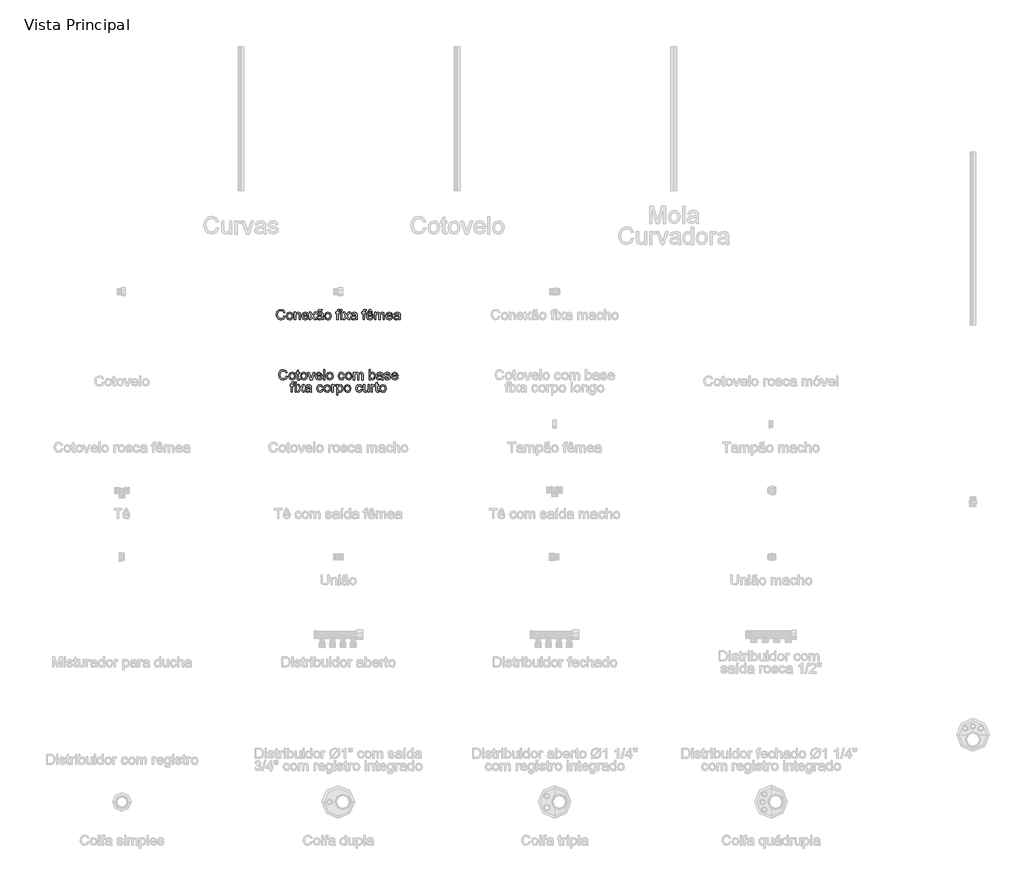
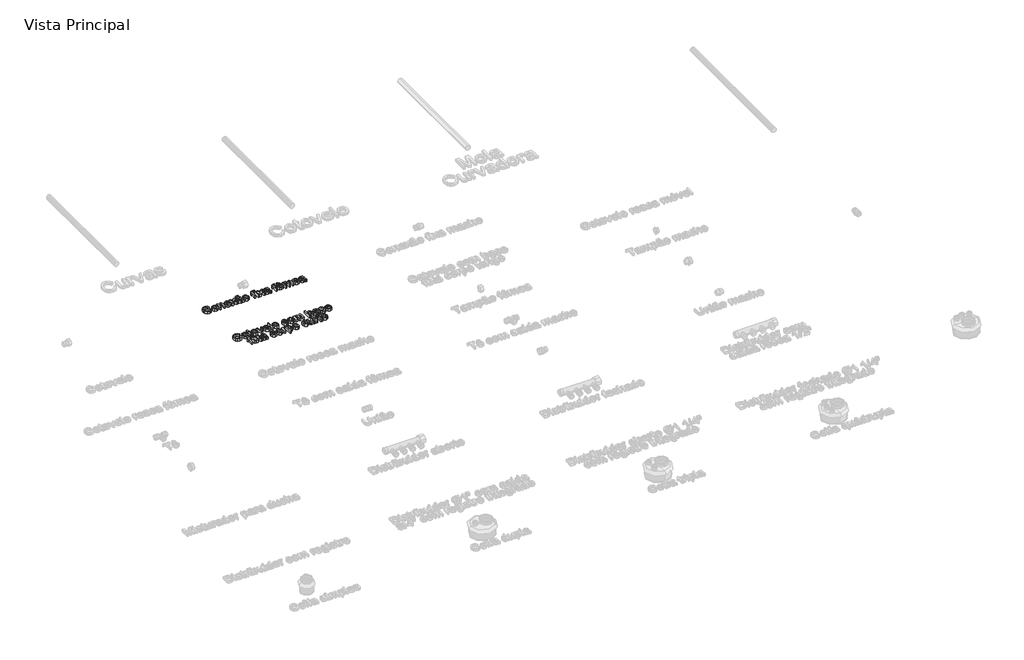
# One storey, part 5 of 12: 2 proxies.
"""IFC4 building model written with IfcOpenShell, lengths in millimetres."""

from ifc_helpers import new_model, si_unit, origin, origin_with_axes, place, context, project, spatial, polyline, outline, extrude, element, save

model = new_model("IFC4")

# Units and contexts
model_context = context("Model", 3, world=origin())
ifc_project = project(units=[si_unit("LENGTHUNIT", "METRE", prefix="MILLI")], contexts=[model_context])

# Site, building, storey
site = spatial("IfcSite", under=ifc_project)
building = spatial("IfcBuilding", under=site)
storey = spatial("IfcBuildingStorey", under=building, Name="Vista Principal", Elevation=0.0)

# Proxies
placement = place(None, origin())
element("IfcBuildingElementProxy", 1, Name="Legenda", ObjectType="Legenda", at=placement, inside=storey, context=model_context, shape_type="SweptSolid", body=[
    extrude(outline(polyline([(-519.5716653, -14.518665), (-515.1767017, -15.6517416), (-520.387137, -24.514632), (-529.589092, -27.5662131), (-538.7352515, -25.2571405), (-544.1001973, -18.5702721), (-545.9414467, -9.1708871), (-543.8598477, 0.3830083), (-537.9412396, 6.5763017), (-529.4946689, 8.6922363), (-520.6918659, 5.953968), (-515.7260721, -1.7543861), (-520.1210357, -2.8016235), (-523.7262793, 2.6019499), (-529.6663472, 4.2972727), (-536.5420617, 2.4173958), (-540.4262824, -2.6299452), (-541.5464831, -9.1623032), (-540.2202685, -16.7333146), (-536.0914063, -21.5703497), (-530.0268716, -23.1712496), (-523.3013756, -20.9909356), (-519.5716653, -14.518665)])), origin_with_axes(), (0.0, 0.0, 1.0), 10.0),
    extrude(outline(polyline([(-510.7817381, -14.1066372), (-506.9790646, -3.5055044), (-499.2363748, -0.6470613), (-490.9314388, -4.1278381), (-487.7081794, -13.7461128), (-489.133109, -21.5660578), (-493.283431, -25.9910651), (-499.2363748, -27.5662131), (-507.5928144, -24.0983122), (-510.7817381, -14.1066372)]), holes=[polyline([(-506.3867746, -14.0980533), (-504.3523871, -20.9093884), (-499.2363748, -23.1712496), (-494.1375304, -20.8965126), (-492.103143, -13.9607107), (-494.1504063, -7.303886), (-499.2363748, -5.0420248), (-504.3523871, -7.2953021), (-506.3867746, -14.0980533)])]), origin_with_axes(), (0.0, 0.0, 1.0), 10.0),
    extrude(outline(polyline([(-482.7638454, -27.0168427), (-482.7638454, -1.1964317), (-478.3688818, -1.1964317), (-478.3688818, -4.8016753), (-470.4201782, -0.6470613), (-466.2698561, -1.4839928), (-463.4371648, -3.6814746), (-462.1195341, -6.9133179), (-461.8877684, -11.162355), (-461.8877684, -27.0168427), (-466.282732, -27.0168427), (-466.282732, -11.754645), (-466.7891829, -7.8661323), (-468.5789288, -5.8102851), (-471.5961743, -5.0420248), (-476.3645381, -6.7673914), (-478.3688818, -13.3169172), (-478.3688818, -27.0168427), (-482.7638454, -27.0168427)])), origin_with_axes(), (0.0, 0.0, 1.0), 10.0),
    extrude(outline(polyline([(-437.7669723, -19.3256564), (-433.4578478, -19.8750269), (-437.4879951, -25.5489935), (-444.9946272, -27.5662131), (-454.119327, -24.0854363), (-457.4928048, -14.321235), (-454.0849913, -4.235137), (-445.2435607, -0.6470613), (-436.6553555, -4.2265531), (-433.3205052, -14.2954833), (-453.0978413, -15.4800633), (-450.5698788, -21.1883656), (-444.9087881, -23.1712496), (-440.5996636, -22.2527708), (-437.7669723, -19.3256564)]), holes=[polyline([(-453.0978413, -11.0850997), (-437.7154688, -11.0850997), (-439.475171, -7.102164), (-445.2607285, -5.0420248), (-450.6728858, -6.6858442), (-453.0978413, -11.0850997)])]), origin_with_axes(), (0.0, 0.0, 1.0), 10.0),
    extrude(outline(polyline([(-431.6723939, -27.0168427), (-422.2815928, -14.0379659), (-431.1230234, -1.1964317), (-425.8353329, -1.1964317), (-421.569128, -7.3768492), (-419.5776602, -10.2953797), (-417.8522936, -7.9090519), (-412.9937987, -1.1964317), (-407.7061082, -1.1964317), (-416.9939023, -14.0379659), (-408.0494647, -27.0168427), (-413.3371552, -27.0168427), (-418.7192688, -19.2140656), (-419.7064189, -17.789136), (-426.3847033, -27.0168427), (-431.6723939, -27.0168427)])), origin_with_axes(), (0.0, 0.0, 1.0), 10.0),
    extrude(outline(polyline([(-387.7227582, -23.72062), (-391.9846711, -26.6992379), (-396.6929475, -27.5662131), (-403.075087, -25.4803222), (-405.3026125, -20.1497121), (-404.461389, -16.6732273), (-402.2510313, -14.1495568), (-399.1736984, -12.7074593), (-395.3710249, -12.046498), (-387.7485099, -10.5357293), (-388.93309, -6.312444), (-393.7915848, -5.0420248), (-398.2380519, -5.8875403), (-400.3582785, -8.887618), (-404.753242, -8.3382475), (-402.8519052, -4.0462909), (-399.0234799, -1.5312043), (-393.2250466, -0.6470613), (-387.8987284, -1.4281974), (-384.8900668, -3.3896215), (-383.5423925, -6.3725314), (-383.3277946, -10.2181245), (-383.3277946, -15.6860772), (-383.1046129, -23.321468), (-382.2290537, -27.0168427), (-386.6240173, -27.0168427), (-387.7227582, -23.72062)]), holes=[polyline([(-387.7356341, -15.5530266), (-394.8130705, -16.2783672), (-398.5942843, -16.990832), (-400.306775, -18.1496603), (-400.9076489, -19.8406912), (-399.5986021, -22.2184352), (-395.757301, -23.1712496), (-391.3108339, -22.1197202), (-388.4438069, -19.5745899), (-387.7356341, -15.5530266)])]), origin_with_axes(), (0.0, 0.0, 1.0), 10.0),
    extrude(outline(polyline([(-401.4570193, 1.5504205), (-400.0921771, 6.348828), (-396.5985245, 8.1428659), (-393.07912, 6.7265202), (-391.30225, 5.9453841), (-389.92024, 8.1428659), (-386.0746469, 8.1428659), (-387.4695328, 3.1985319), (-390.8387187, 1.5504205), (-394.3152035, 2.889511), (-396.1693288, 3.7479023), (-397.6114262, 1.5504205), (-401.4570193, 1.5504205)])), origin_with_axes(), (0.0, 0.0, 1.0), 10.0),
    extrude(outline(polyline([(-378.3834606, -14.1066372), (-374.5807871, -3.5055044), (-366.8380973, -0.6470613), (-358.5331613, -4.1278381), (-355.3099019, -13.7461128), (-356.7348315, -21.5660578), (-360.8851535, -25.9910651), (-366.8380973, -27.5662131), (-375.1945368, -24.0983122), (-378.3834606, -14.1066372)]), holes=[polyline([(-373.988497, -14.0980533), (-371.9541096, -20.9093884), (-366.8380973, -23.1712496), (-361.7392529, -20.8965126), (-359.7048654, -13.9607107), (-361.7521287, -7.303886), (-366.8380973, -5.0420248), (-371.9541096, -7.2953021), (-373.988497, -14.0980533)])]), origin_with_axes(), (0.0, 0.0, 1.0), 10.0),
    extrude(outline(polyline([(-335.5325658, -27.0168427), (-335.5325658, -5.5913953), (-339.3781589, -5.5913953), (-339.3781589, -1.1964317), (-335.5325658, -1.1964317), (-335.5325658, 1.404494), (-335.0690345, 5.0698249), (-332.8200492, 7.6879185), (-328.39075, 8.6922363), (-324.3820625, 8.2115372), (-325.025856, 4.0912588), (-327.5581104, 4.2972727), (-330.3264224, 3.5676401), (-331.1376022, 0.8465396), (-331.1376022, -1.1964317), (-326.1932682, -1.1964317), (-326.1932682, -5.5913953), (-331.1376022, -5.5913953), (-331.1376022, -27.0168427), (-335.5325658, -27.0168427)])), origin_with_axes(), (0.0, 0.0, 1.0), 10.0),
    extrude(outline(polyline([(-322.3476751, 3.7479023), (-322.3476751, 8.1428659), (-317.9527115, 8.1428659), (-317.9527115, 3.7479023), (-322.3476751, 3.7479023)])), origin_with_axes(), (0.0, 0.0, 1.0), 10.0),
    extrude(outline(polyline([(-322.3476751, -27.0168427), (-322.3476751, -1.1964317), (-317.9527115, -1.1964317), (-317.9527115, -27.0168427), (-322.3476751, -27.0168427)])), origin_with_axes(), (0.0, 0.0, 1.0), 10.0),
    extrude(outline(polyline([(-314.1071184, -27.0168427), (-304.7163173, -14.0379659), (-313.557748, -1.1964317), (-308.2700574, -1.1964317), (-304.0038525, -7.3768492), (-302.0123847, -10.2953797), (-300.2870181, -7.9090519), (-295.4285232, -1.1964317), (-290.1408327, -1.1964317), (-299.4286268, -14.0379659), (-290.4841892, -27.0168427), (-295.7718798, -27.0168427), (-301.1539934, -19.2140656), (-302.1411434, -17.789136), (-308.8194279, -27.0168427), (-314.1071184, -27.0168427)])), origin_with_axes(), (0.0, 0.0, 1.0), 10.0),
    extrude(outline(polyline([(-270.1574827, -23.72062), (-274.4193956, -26.6992379), (-279.127672, -27.5662131), (-285.5098115, -25.4803222), (-287.737337, -20.1497121), (-286.8961135, -16.6732273), (-284.6857558, -14.1495568), (-281.608423, -12.7074593), (-277.8057494, -12.046498), (-270.1832345, -10.5357293), (-271.3678145, -6.312444), (-276.2263094, -5.0420248), (-280.6727764, -5.8875403), (-282.793003, -8.887618), (-287.1879665, -8.3382475), (-285.2866298, -4.0462909), (-281.4582045, -1.5312043), (-275.6597711, -0.6470613), (-270.3334529, -1.4281974), (-267.3247914, -3.3896215), (-265.977117, -6.3725314), (-265.7625192, -10.2181245), (-265.7625192, -15.6860772), (-265.5393374, -23.321468), (-264.6637783, -27.0168427), (-269.0587418, -27.0168427), (-270.1574827, -23.72062)]), holes=[polyline([(-270.1703586, -15.5530266), (-277.247795, -16.2783672), (-281.0290088, -16.990832), (-282.7414995, -18.1496603), (-283.3423734, -19.8406912), (-282.0333267, -22.2184352), (-278.1920255, -23.1712496), (-273.7455584, -22.1197202), (-270.8785314, -19.5745899), (-270.1703586, -15.5530266)])]), origin_with_axes(), (0.0, 0.0, 1.0), 10.0),
    extrude(outline(polyline([(-244.8864422, -27.0168427), (-244.8864422, -5.5913953), (-248.7320353, -5.5913953), (-248.7320353, -1.1964317), (-244.8864422, -1.1964317), (-244.8864422, 1.404494), (-244.4229109, 5.0698249), (-242.1739256, 7.6879185), (-237.7446264, 8.6922363), (-233.7359389, 8.2115372), (-234.3797324, 4.0912588), (-236.9119868, 4.2972727), (-239.6802988, 3.5676401), (-240.4914786, 0.8465396), (-240.4914786, -1.1964317), (-235.5471446, -1.1964317), (-235.5471446, -5.5913953), (-240.4914786, -5.5913953), (-240.4914786, -27.0168427), (-244.8864422, -27.0168427)])), origin_with_axes(), (0.0, 0.0, 1.0), 10.0),
    extrude(outline(polyline([(-213.6238302, -19.3256564), (-209.3147058, -19.8750269), (-213.3448531, -25.5489935), (-220.8514852, -27.5662131), (-229.9761849, -24.0854363), (-233.3496628, -14.321235), (-229.9418493, -4.235137), (-221.1004187, -0.6470613), (-212.5122135, -4.2265531), (-209.1773632, -14.2954833), (-228.9546993, -15.4800633), (-226.4267368, -21.1883656), (-220.765646, -23.1712496), (-216.4565216, -22.2527708), (-213.6238302, -19.3256564)]), holes=[polyline([(-228.9546993, -11.0850997), (-213.5723268, -11.0850997), (-215.332029, -7.102164), (-221.1175865, -5.0420248), (-226.5297438, -6.6858442), (-228.9546993, -11.0850997)])]), origin_with_axes(), (0.0, 0.0, 1.0), 10.0),
    extrude(outline(polyline([(-221.263513, 5.9453841), (-223.73568, 1.5504205), (-228.1306436, 1.5504205), (-223.4609948, 8.1428659), (-219.0660312, 8.1428659), (-213.847012, 1.5504205), (-218.2419756, 1.5504205), (-221.263513, 5.9453841)])), origin_with_axes(), (0.0, 0.0, 1.0), 10.0),
    extrude(outline(polyline([(-204.7823996, -27.0168427), (-204.7823996, -1.1964317), (-200.3874361, -1.1964317), (-200.3874361, -5.4454688), (-197.3658986, -1.9646919), (-193.0653581, -0.6470613), (-188.6618106, -1.9904437), (-186.2411471, -5.7544896), (-178.4812895, -0.6470613), (-172.7343596, -2.7715798), (-170.721432, -9.3168136), (-170.721432, -27.0168427), (-175.1163955, -27.0168427), (-175.1163955, -11.2052745), (-175.5241314, -7.5356516), (-177.0005645, -5.7287379), (-179.5113591, -5.0420248), (-183.8333594, -6.801727), (-185.554434, -12.441358), (-185.554434, -27.0168427), (-189.9493976, -27.0168427), (-189.9493976, -10.7159915), (-190.9665913, -6.4583705), (-194.3014416, -5.0420248), (-197.5547447, -5.9862553), (-199.7178908, -8.7502753), (-200.3874361, -13.9950463), (-200.3874361, -27.0168427), (-204.7823996, -27.0168427)])), origin_with_axes(), (0.0, 0.0, 1.0), 10.0),
    extrude(outline(polyline([(-146.0512654, -19.3256564), (-141.7421409, -19.8750269), (-145.7722882, -25.5489935), (-153.2789203, -27.5662131), (-162.4036201, -24.0854363), (-165.777098, -14.321235), (-162.3692844, -4.235137), (-153.5278538, -0.6470613), (-144.9396486, -4.2265531), (-141.6047983, -14.2954833), (-161.3821344, -15.4800633), (-158.8541719, -21.1883656), (-153.1930812, -23.1712496), (-148.8839567, -22.2527708), (-146.0512654, -19.3256564)]), holes=[polyline([(-161.3821344, -11.0850997), (-145.9997619, -11.0850997), (-147.7594641, -7.102164), (-153.5450216, -5.0420248), (-158.9571789, -6.6858442), (-161.3821344, -11.0850997)])]), origin_with_axes(), (0.0, 0.0, 1.0), 10.0),
    extrude(outline(polyline([(-120.7287214, -23.72062), (-124.9906343, -26.6992379), (-129.6989107, -27.5662131), (-136.0810502, -25.4803222), (-138.3085756, -20.1497121), (-137.4673522, -16.6732273), (-135.2569945, -14.1495568), (-132.1796616, -12.7074593), (-128.3769881, -12.046498), (-120.7544731, -10.5357293), (-121.9390531, -6.312444), (-126.797548, -5.0420248), (-131.2440151, -5.8875403), (-133.3642416, -8.887618), (-137.7592052, -8.3382475), (-135.8578684, -4.0462909), (-132.0294431, -1.5312043), (-126.2310097, -0.6470613), (-120.9046916, -1.4281974), (-117.89603, -3.3896215), (-116.5483556, -6.3725314), (-116.3337578, -10.2181245), (-116.3337578, -15.6860772), (-116.1105761, -23.321468), (-115.2350169, -27.0168427), (-119.6299805, -27.0168427), (-120.7287214, -23.72062)]), holes=[polyline([(-120.7415972, -15.5530266), (-127.8190337, -16.2783672), (-131.6002475, -16.990832), (-133.3127382, -18.1496603), (-133.9136121, -19.8406912), (-132.6045653, -22.2184352), (-128.7632641, -23.1712496), (-124.3167971, -22.1197202), (-121.4497701, -19.5745899), (-120.7415972, -15.5530266)])]), origin_with_axes(), (0.0, 0.0, 1.0), 10.0),
])
element("IfcBuildingElementProxy", 2, Name="Legenda", ObjectType="Legenda", at=placement, inside=storey, context=model_context, shape_type="SweptSolid", body=[
    extrude(outline(polyline([(-511.0564233, -223.1730719), (-506.6614598, -224.3061485), (-511.8718951, -233.1690389), (-521.0738501, -236.22062), (-530.2200096, -233.9115473), (-535.5849554, -227.2246789), (-537.4262048, -217.825294), (-535.3446058, -208.2713986), (-529.4259976, -202.0781052), (-520.979427, -199.9621706), (-512.176624, -202.7004389), (-507.2108302, -210.408793), (-511.6057938, -211.4560304), (-515.2110373, -206.052457), (-521.1511053, -204.3571341), (-528.0268198, -206.2370111), (-531.9110405, -211.2843521), (-533.0312412, -217.8167101), (-531.7050266, -225.3877215), (-527.5761643, -230.2247566), (-521.5116297, -231.8256564), (-514.7861336, -229.6453425), (-511.0564233, -223.1730719)])), origin_with_axes(), (0.0, 0.0, 1.0), 10.0),
    extrude(outline(polyline([(-502.2664962, -222.7610441), (-498.4638227, -212.1599112), (-490.7211329, -209.3014681), (-482.4161969, -212.782245), (-479.1929375, -222.4005197), (-480.6178671, -230.2204647), (-484.7681891, -234.6454719), (-490.7211329, -236.22062), (-499.0775724, -232.7527191), (-502.2664962, -222.7610441)]), holes=[polyline([(-497.8715326, -222.7524602), (-495.8371452, -229.5637953), (-490.7211329, -231.8256564), (-485.6222885, -229.5509194), (-483.587901, -222.6151176), (-485.6351643, -215.9582928), (-490.7211329, -213.6964317), (-495.8371452, -215.9497089), (-497.8715326, -222.7524602)])]), origin_with_axes(), (0.0, 0.0, 1.0), 10.0),
    extrude(outline(polyline([(-464.9093059, -232.0059186), (-464.3599354, -235.8000083), (-467.6475742, -236.22062), (-471.330073, -235.4909874), (-473.1670304, -233.5767747), (-473.699233, -228.5895212), (-473.699233, -214.2458022), (-476.9954557, -214.2458022), (-476.9954557, -209.8508386), (-473.699233, -209.8508386), (-473.699233, -203.575998), (-469.3042694, -200.9922401), (-469.3042694, -209.8508386), (-464.9093059, -209.8508386), (-464.9093059, -214.2458022), (-469.3042694, -214.2458022), (-469.3042694, -228.4607625), (-469.0725038, -230.7269155), (-464.9093059, -232.0059186)])), origin_with_axes(), (0.0, 0.0, 1.0), 10.0),
    extrude(outline(polyline([(-461.6130832, -222.7610441), (-457.8104096, -212.1599112), (-450.0677199, -209.3014681), (-441.7627839, -212.782245), (-438.5395245, -222.4005197), (-439.9644541, -230.2204647), (-444.1147761, -234.6454719), (-450.0677199, -236.22062), (-458.4241594, -232.7527191), (-461.6130832, -222.7610441)]), holes=[polyline([(-457.2181196, -222.7524602), (-455.1837322, -229.5637953), (-450.0677199, -231.8256564), (-444.9688755, -229.5509194), (-442.934488, -222.6151176), (-444.9817513, -215.9582928), (-450.0677199, -213.6964317), (-455.1837322, -215.9497089), (-457.2181196, -222.7524602)])]), origin_with_axes(), (0.0, 0.0, 1.0), 10.0),
    extrude(outline(polyline([(-427.2602625, -235.6712496), (-436.3420427, -209.8508386), (-431.6895617, -209.8508386), (-426.1872733, -225.3190502), (-424.5305781, -230.5209016), (-422.9082185, -225.6109033), (-417.3715945, -209.8508386), (-412.7191135, -209.8508386), (-421.6893028, -235.6712496), (-427.2602625, -235.6712496)])), origin_with_axes(), (0.0, 0.0, 1.0), 10.0),
    extrude(outline(polyline([(-390.7957991, -227.9800633), (-386.4866747, -228.5294338), (-390.5168219, -234.2034004), (-398.0234541, -236.22062), (-407.1481538, -232.7398432), (-410.5216317, -222.9756419), (-407.1138182, -212.8895439), (-398.2723875, -209.3014681), (-389.6841824, -212.88096), (-386.3493321, -222.9498902), (-406.1266681, -224.1344702), (-403.5987057, -229.8427725), (-397.9376149, -231.8256564), (-393.6284905, -230.9071777), (-390.7957991, -227.9800633)]), holes=[polyline([(-406.1266681, -219.7395066), (-390.7442956, -219.7395066), (-392.5039979, -215.7565709), (-398.2895554, -213.6964317), (-403.7017127, -215.3402511), (-406.1266681, -219.7395066)])]), origin_with_axes(), (0.0, 0.0, 1.0), 10.0),
    extrude(outline(polyline([(-381.9543685, -235.6712496), (-381.9543685, -200.511541), (-377.5594049, -200.511541), (-377.5594049, -235.6712496), (-381.9543685, -235.6712496)])), origin_with_axes(), (0.0, 0.0, 1.0), 10.0),
    extrude(outline(polyline([(-372.0657005, -222.7610441), (-368.2630269, -212.1599112), (-360.5203372, -209.3014681), (-352.2154012, -212.782245), (-348.9921417, -222.4005197), (-350.4170713, -230.2204647), (-354.5673934, -234.6454719), (-360.5203372, -236.22062), (-368.8767767, -232.7527191), (-372.0657005, -222.7610441)]), holes=[polyline([(-367.6707369, -222.7524602), (-365.6363495, -229.5637953), (-360.5203372, -231.8256564), (-355.4214927, -229.5509194), (-353.3871053, -222.6151176), (-355.4343686, -215.9582928), (-360.5203372, -213.6964317), (-365.6363495, -215.9497089), (-367.6707369, -222.7524602)])]), origin_with_axes(), (0.0, 0.0, 1.0), 10.0),
    extrude(outline(polyline([(-313.8324332, -226.331952), (-309.4374696, -226.8813224), (-312.965458, -233.744161), (-319.9355955, -236.22062), (-328.2662833, -232.7655949), (-331.4122875, -222.8554671), (-330.068905, -215.5548489), (-325.9743784, -210.8637404), (-319.9956829, -209.3014681), (-313.3131064, -211.4474464), (-309.9868401, -217.5420248), (-314.3818036, -218.0913953), (-316.420483, -214.7994646), (-319.9613472, -213.6964317), (-325.0558997, -215.8681618), (-327.0173239, -222.7352923), (-325.0988193, -229.6668023), (-320.081522, -231.8256564), (-315.9397839, -230.4779821), (-313.8324332, -226.331952)])), origin_with_axes(), (0.0, 0.0, 1.0), 10.0),
    extrude(outline(polyline([(-306.6906174, -222.7610441), (-302.8879438, -212.1599112), (-295.1452541, -209.3014681), (-286.8403181, -212.782245), (-283.6170586, -222.4005197), (-285.0419882, -230.2204647), (-289.1923103, -234.6454719), (-295.1452541, -236.22062), (-303.5016936, -232.7527191), (-306.6906174, -222.7610441)]), holes=[polyline([(-302.2956538, -222.7524602), (-300.2612664, -229.5637953), (-295.1452541, -231.8256564), (-290.0464097, -229.5509194), (-288.0120222, -222.6151176), (-290.0592855, -215.9582928), (-295.1452541, -213.6964317), (-300.2612664, -215.9497089), (-302.2956538, -222.7524602)])]), origin_with_axes(), (0.0, 0.0, 1.0), 10.0),
    extrude(outline(polyline([(-278.6727246, -235.6712496), (-278.6727246, -209.8508386), (-274.2777611, -209.8508386), (-274.2777611, -214.0998756), (-271.2562236, -210.6190988), (-266.9556831, -209.3014681), (-262.5521356, -210.6448506), (-260.1314721, -214.4088965), (-252.3716145, -209.3014681), (-246.6246846, -211.4259867), (-244.611757, -217.9712205), (-244.611757, -235.6712496), (-249.0067205, -235.6712496), (-249.0067205, -219.8596814), (-249.4144564, -216.1900585), (-250.8908895, -214.3831448), (-253.4016841, -213.6964317), (-257.7236844, -215.4561339), (-259.444759, -221.0957649), (-259.444759, -235.6712496), (-263.8397226, -235.6712496), (-263.8397226, -219.3703984), (-264.8569163, -215.1127774), (-268.1917666, -213.6964317), (-271.4450697, -214.6406622), (-273.6082158, -217.4046822), (-274.2777611, -222.6494532), (-274.2777611, -235.6712496), (-278.6727246, -235.6712496)])), origin_with_axes(), (0.0, 0.0, 1.0), 10.0),
    extrude(outline(polyline([(-219.8900869, -235.6712496), (-224.2850505, -235.6712496), (-224.2850505, -200.511541), (-219.8900869, -200.511541), (-219.8900869, -213.5505052), (-212.9886207, -209.3014681), (-208.5850732, -210.2585745), (-205.1686757, -212.9496313), (-203.0699089, -217.134289), (-202.3102326, -222.374768), (-205.4562368, -232.6067925), (-213.0143724, -236.22062), (-219.8900869, -231.5595551), (-219.8900869, -235.6712496)]), holes=[polyline([(-219.8900869, -222.5807819), (-218.688339, -228.7268638), (-213.3920646, -231.8256564), (-208.6880801, -229.5423355), (-206.7051962, -222.7352923), (-208.606533, -215.9024974), (-213.2032185, -213.6964317), (-217.9072029, -215.9797526), (-219.8900869, -222.5807819)])]), origin_with_axes(), (0.0, 0.0, 1.0), 10.0),
    extrude(outline(polyline([(-180.8847852, -232.3750269), (-185.1466981, -235.3536448), (-189.8549745, -236.22062), (-196.237114, -234.1347291), (-198.4646395, -228.804119), (-197.623416, -225.3276341), (-195.4130583, -222.8039636), (-192.3357255, -221.3618662), (-188.5330519, -220.7009049), (-180.910537, -219.1901362), (-182.095117, -214.9668509), (-186.9536119, -213.6964317), (-191.4000789, -214.5419472), (-193.5203055, -217.5420248), (-197.9152691, -216.9926544), (-196.0139323, -212.7006978), (-192.185507, -210.1856112), (-186.3870736, -209.3014681), (-181.0607554, -210.0826042), (-178.0520939, -212.0440284), (-176.7044195, -215.0269383), (-176.4898217, -218.8725314), (-176.4898217, -224.3404841), (-176.2666399, -231.9758749), (-175.3910808, -235.6712496), (-179.7860443, -235.6712496), (-180.8847852, -232.3750269)]), holes=[polyline([(-180.8976611, -224.2074335), (-187.9750975, -224.9327741), (-191.7563113, -225.6452389), (-193.468802, -226.8040672), (-194.0696759, -228.4950981), (-192.7606292, -230.8728421), (-188.919328, -231.8256564), (-184.4728609, -230.7741271), (-181.6058339, -228.2289968), (-180.8976611, -224.2074335)])]), origin_with_axes(), (0.0, 0.0, 1.0), 10.0),
    extrude(outline(polyline([(-172.0948581, -227.9800633), (-167.6998945, -227.4306929), (-165.6655071, -230.6925799), (-161.0044422, -231.8256564), (-156.5236395, -230.7870029), (-155.0643743, -228.3491716), (-156.5322234, -226.3748715), (-161.0559457, -225.1216202), (-167.6741428, -222.9713499), (-170.5626296, -220.4605553), (-171.5454876, -216.9153992), (-170.7557676, -213.6406363), (-168.6012054, -211.1384256), (-165.8071417, -209.8379627), (-162.0259279, -209.3014681), (-156.6781499, -210.1641514), (-153.2789203, -212.4989758), (-151.7681516, -216.4432839), (-156.1631151, -216.9926544), (-157.8155184, -214.5676989), (-161.6825713, -213.6964317), (-165.8886888, -214.5290713), (-167.1505241, -216.4690357), (-164.9873779, -218.7180209), (-161.2018722, -219.6536675), (-154.7510614, -221.7223906), (-151.7552757, -224.0657989), (-150.6694107, -227.8856403), (-151.9441218, -232.0917577), (-155.6223286, -235.1433389), (-161.0645296, -236.22062), (-168.7299641, -234.143313), (-172.0948581, -227.9800633)])), origin_with_axes(), (0.0, 0.0, 1.0), 10.0),
    extrude(outline(polyline([(-127.6473554, -227.9800633), (-123.338231, -228.5294338), (-127.3683782, -234.2034004), (-134.8750104, -236.22062), (-143.9997101, -232.7398432), (-147.373188, -222.9756419), (-143.9653745, -212.8895439), (-135.1239438, -209.3014681), (-126.5357387, -212.88096), (-123.2008884, -222.9498902), (-142.9782244, -224.1344702), (-140.450262, -229.8427725), (-134.7891712, -231.8256564), (-130.4800468, -230.9071777), (-127.6473554, -227.9800633)]), holes=[polyline([(-142.9782244, -219.7395066), (-127.5958519, -219.7395066), (-129.3555542, -215.7565709), (-135.1411117, -213.6964317), (-140.553269, -215.3402511), (-142.9782244, -219.7395066)])]), origin_with_axes(), (0.0, 0.0, 1.0), 10.0),
    extrude(outline(polyline([(-494.0259395, -278.3624358), (-494.0259395, -256.9369884), (-497.8715326, -256.9369884), (-497.8715326, -252.5420248), (-494.0259395, -252.5420248), (-494.0259395, -249.9410991), (-493.5624082, -246.2757682), (-491.3134229, -243.6576747), (-486.8841237, -242.6533568), (-482.8754362, -243.1340559), (-483.5192297, -247.2543343), (-486.0514841, -247.0483204), (-488.8197961, -247.777953), (-489.6309759, -250.4990535), (-489.6309759, -252.5420248), (-484.6866419, -252.5420248), (-484.6866419, -256.9369884), (-489.6309759, -256.9369884), (-489.6309759, -278.3624358), (-494.0259395, -278.3624358)])), origin_with_axes(), (0.0, 0.0, 1.0), 10.0),
    extrude(outline(polyline([(-480.8410488, -247.5976908), (-480.8410488, -243.2027273), (-476.4460852, -243.2027273), (-476.4460852, -247.5976908), (-480.8410488, -247.5976908)])), origin_with_axes(), (0.0, 0.0, 1.0), 10.0),
    extrude(outline(polyline([(-480.8410488, -278.3624358), (-480.8410488, -252.5420248), (-476.4460852, -252.5420248), (-476.4460852, -278.3624358), (-480.8410488, -278.3624358)])), origin_with_axes(), (0.0, 0.0, 1.0), 10.0),
    extrude(outline(polyline([(-472.6004921, -278.3624358), (-463.2096911, -265.383559), (-472.0511217, -252.5420248), (-466.7634311, -252.5420248), (-462.4972263, -258.7224424), (-460.5057584, -261.6409729), (-458.7803918, -259.254645), (-453.921897, -252.5420248), (-448.6342064, -252.5420248), (-457.9220005, -265.383559), (-448.9775629, -278.3624358), (-454.2652535, -278.3624358), (-459.6473671, -270.5596587), (-460.6345171, -269.1347291), (-467.3128016, -278.3624358), (-472.6004921, -278.3624358)])), origin_with_axes(), (0.0, 0.0, 1.0), 10.0),
    extrude(outline(polyline([(-428.6508564, -275.0662131), (-432.9127693, -278.044831), (-437.6210457, -278.9118063), (-444.0031852, -276.8259153), (-446.2307107, -271.4953052), (-445.3894872, -268.0188204), (-443.1791296, -265.4951499), (-440.1017967, -264.0530525), (-436.2991231, -263.3920911), (-428.6766082, -261.8813224), (-429.8611882, -257.6580371), (-434.7196831, -256.387618), (-439.1661501, -257.2331334), (-441.2863767, -260.2332111), (-445.6813403, -259.6838406), (-443.7800035, -255.391884), (-439.9515782, -252.8767975), (-434.1531448, -251.9926544), (-428.8268266, -252.7737905), (-425.8181651, -254.7352147), (-424.4704907, -257.7181245), (-424.2558929, -261.5637176), (-424.2558929, -267.0316704), (-424.0327111, -274.6670612), (-423.157152, -278.3624358), (-427.5521155, -278.3624358), (-428.6508564, -275.0662131)]), holes=[polyline([(-428.6637323, -266.8986197), (-435.7411687, -267.6239604), (-439.5223825, -268.3364252), (-441.2348732, -269.4952534), (-441.8357471, -271.1862844), (-440.5267004, -273.5640283), (-436.6853992, -274.5168427), (-432.2389322, -273.4653133), (-429.3719051, -270.920183), (-428.6637323, -266.8986197)])]), origin_with_axes(), (0.0, 0.0, 1.0), 10.0),
    extrude(outline(polyline([(-387.9974434, -269.0231382), (-383.6024798, -269.5725087), (-387.1304682, -276.4353473), (-394.1006057, -278.9118063), (-402.4312935, -275.4567812), (-405.5772977, -265.5466534), (-404.2339153, -258.2460352), (-400.1393887, -253.5549266), (-394.1606931, -251.9926544), (-387.4781167, -254.1386327), (-384.1518503, -260.2332111), (-388.5468139, -260.7825815), (-390.5854933, -257.4906508), (-394.1263575, -256.387618), (-399.22091, -258.559348), (-401.1823341, -265.4264786), (-399.2638295, -272.3579885), (-394.2465322, -274.5168427), (-390.1047941, -273.1691683), (-387.9974434, -269.0231382)])), origin_with_axes(), (0.0, 0.0, 1.0), 10.0),
    extrude(outline(polyline([(-380.8556276, -265.4522303), (-377.0529541, -254.8510975), (-369.3102643, -251.9926544), (-361.0053283, -255.4734312), (-357.7820689, -265.091706), (-359.2069985, -272.9116509), (-363.3573205, -277.3366582), (-369.3102643, -278.9118063), (-377.6667039, -275.4439053), (-380.8556276, -265.4522303)]), holes=[polyline([(-376.460664, -265.4436464), (-374.4262766, -272.2549815), (-369.3102643, -274.5168427), (-364.2114199, -272.2421057), (-362.1770324, -265.3063038), (-364.2242957, -258.6494791), (-369.3102643, -256.387618), (-374.4262766, -258.6408952), (-376.460664, -265.4436464)])]), origin_with_axes(), (0.0, 0.0, 1.0), 10.0),
    extrude(outline(polyline([(-352.8377349, -278.3624358), (-352.8377349, -252.5420248), (-348.9921417, -252.5420248), (-348.9921417, -256.3618662), (-346.2624573, -252.8424618), (-343.5156051, -251.9926544), (-339.1034737, -253.3489127), (-340.5713229, -257.2889288), (-343.6615316, -256.387618), (-346.1465745, -257.2545932), (-347.7303065, -259.6580889), (-348.4427713, -264.791269), (-348.4427713, -278.3624358), (-352.8377349, -278.3624358)])), origin_with_axes(), (0.0, 0.0, 1.0), 10.0),
    extrude(outline(polyline([(-336.3566215, -288.2511038), (-336.3566215, -252.5420248), (-331.9616579, -252.5420248), (-331.9616579, -256.8511493), (-328.9229526, -253.2072781), (-324.8198421, -251.9926544), (-319.2488824, -253.6922692), (-315.6093032, -258.4820928), (-314.3818036, -265.2548003), (-315.7681056, -272.3751563), (-319.7939609, -277.2250673), (-325.3520447, -278.9118063), (-329.1761781, -277.7830217), (-331.9616579, -274.9288705), (-331.9616579, -288.2511038), (-336.3566215, -288.2511038)]), holes=[polyline([(-331.9616579, -265.6582442), (-330.0603211, -272.3536966), (-325.4464678, -274.5168427), (-320.7381914, -272.2764413), (-318.7767672, -265.3320555), (-320.6909799, -258.6194354), (-325.2662056, -256.387618), (-329.9315624, -258.76107), (-331.9616579, -265.6582442)])]), origin_with_axes(), (0.0, 0.0, 1.0), 10.0),
    extrude(outline(polyline([(-310.5362105, -265.4522303), (-306.733537, -254.8510975), (-298.9908472, -251.9926544), (-290.6859112, -255.4734312), (-287.4626518, -265.091706), (-288.8875814, -272.9116509), (-293.0379034, -277.3366582), (-298.9908472, -278.9118063), (-307.3472867, -275.4439053), (-310.5362105, -265.4522303)]), holes=[polyline([(-306.1412469, -265.4436464), (-304.1068595, -272.2549815), (-298.9908472, -274.5168427), (-293.8920028, -272.2421057), (-291.8576153, -265.3063038), (-293.9048786, -258.6494791), (-298.9908472, -256.387618), (-304.1068595, -258.6408952), (-306.1412469, -265.4436464)])]), origin_with_axes(), (0.0, 0.0, 1.0), 10.0),
    extrude(outline(polyline([(-252.3029432, -269.0231382), (-247.9079797, -269.5725087), (-251.435968, -276.4353473), (-258.4061055, -278.9118063), (-266.7367933, -275.4567812), (-269.8827975, -265.5466534), (-268.5394151, -258.2460352), (-264.4448885, -253.5549266), (-258.4661929, -251.9926544), (-251.7836165, -254.1386327), (-248.4573501, -260.2332111), (-252.8523137, -260.7825815), (-254.8909931, -257.4906508), (-258.4318573, -256.387618), (-263.5264098, -258.559348), (-265.4878339, -265.4264786), (-263.5693293, -272.3579885), (-258.552032, -274.5168427), (-254.4102939, -273.1691683), (-252.3029432, -269.0231382)])), origin_with_axes(), (0.0, 0.0, 1.0), 10.0),
    extrude(outline(polyline([(-227.5812731, -278.3624358), (-227.5812731, -273.9245527), (-235.512809, -278.9118063), (-239.6459632, -278.0362471), (-242.4958224, -275.8387653), (-243.8048691, -272.60263), (-244.0623865, -268.5166873), (-244.0623865, -252.5420248), (-239.667423, -252.5420248), (-239.667423, -266.4479643), (-239.4013216, -270.928767), (-237.6630792, -273.5597364), (-234.3883163, -274.5168427), (-230.7186934, -273.5382766), (-228.2937379, -270.8729715), (-227.5812731, -265.975849), (-227.5812731, -252.5420248), (-223.1863096, -252.5420248), (-223.1863096, -278.3624358), (-227.5812731, -278.3624358)])), origin_with_axes(), (0.0, 0.0, 1.0), 10.0),
    extrude(outline(polyline([(-217.1432347, -278.3624358), (-217.1432347, -252.5420248), (-213.2976415, -252.5420248), (-213.2976415, -256.3618662), (-210.5679571, -252.8424618), (-207.8211049, -251.9926544), (-203.4089735, -253.3489127), (-204.8768227, -257.2889288), (-207.9670314, -256.387618), (-210.4520743, -257.2545932), (-212.0358063, -259.6580889), (-212.7482711, -264.791269), (-212.7482711, -278.3624358), (-217.1432347, -278.3624358)])), origin_with_axes(), (0.0, 0.0, 1.0), 10.0),
    extrude(outline(polyline([(-191.3228237, -274.6971049), (-190.7734533, -278.4911945), (-194.061092, -278.9118063), (-197.7435908, -278.1821736), (-199.5805482, -276.267961), (-200.1127508, -271.2807074), (-200.1127508, -256.9369884), (-203.4089735, -256.9369884), (-203.4089735, -252.5420248), (-200.1127508, -252.5420248), (-200.1127508, -246.2671843), (-195.7177873, -243.6834264), (-195.7177873, -252.5420248), (-191.3228237, -252.5420248), (-191.3228237, -256.9369884), (-195.7177873, -256.9369884), (-195.7177873, -271.1519487), (-195.4860216, -273.4181018), (-191.3228237, -274.6971049)])), origin_with_axes(), (0.0, 0.0, 1.0), 10.0),
    extrude(outline(polyline([(-188.026601, -265.4522303), (-184.2239275, -254.8510975), (-176.4812377, -251.9926544), (-168.1763017, -255.4734312), (-164.9530423, -265.091706), (-166.3779719, -272.9116509), (-170.5282939, -277.3366582), (-176.4812377, -278.9118063), (-184.8376773, -275.4439053), (-188.026601, -265.4522303)]), holes=[polyline([(-183.6316375, -265.4436464), (-181.59725, -272.2549815), (-176.4812377, -274.5168427), (-171.3823933, -272.2421057), (-169.3480059, -265.3063038), (-171.3952692, -258.6494791), (-176.4812377, -256.387618), (-181.59725, -258.6408952), (-183.6316375, -265.4436464)])]), origin_with_axes(), (0.0, 0.0, 1.0), 10.0),
])

save(model, "model.ifc")
